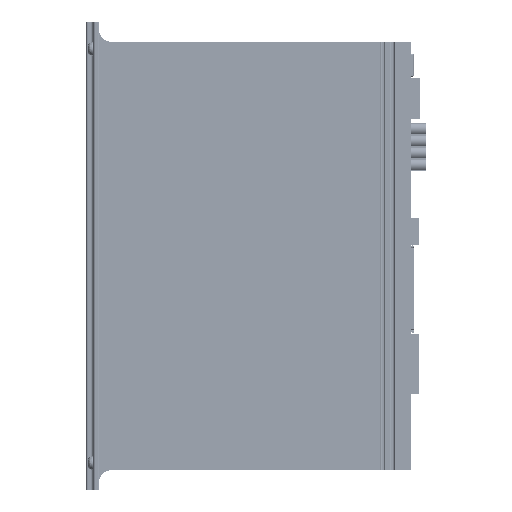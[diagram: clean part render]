
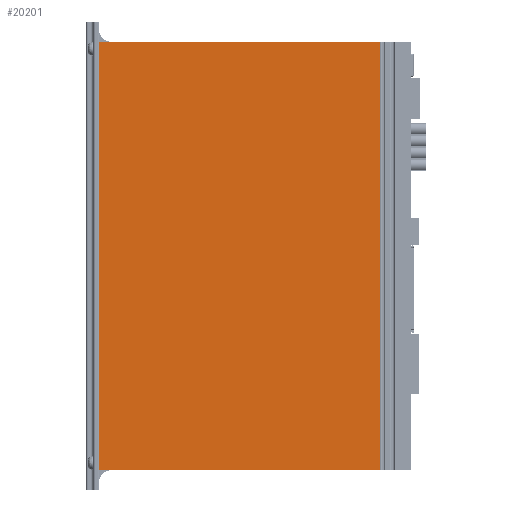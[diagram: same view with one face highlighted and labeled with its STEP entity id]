
A CAD part, front view. The second image highlights one B-rep face of the part: STEP entity #20201.
In plain terms, the highlighted planar face has unit normal (0, -1, 0) as drawn and (-1, 0, 0) by its records, which use the part's own axes.
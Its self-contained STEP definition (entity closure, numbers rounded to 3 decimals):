
#8988=DIRECTION('',(0.,-1.,0.));
#8989=VECTOR('',#8988,179.4);
#8990=CARTESIAN_POINT('',(-23.5,89.7,13.));
#8991=LINE('',#8990,#8989);
#8995=DIRECTION('',(0.,0.,-1.));
#8996=VECTOR('',#8995,118.1);
#8997=CARTESIAN_POINT('',(-23.5,89.7,131.1));
#8998=LINE('',#8997,#8996);
#9002=DIRECTION('',(0.,0.,-1.));
#9003=VECTOR('',#9002,118.1);
#9004=CARTESIAN_POINT('',(-23.5,-89.7,131.1));
#9005=LINE('',#9004,#9003);
#11305=DIRECTION('',(0.,-1.,0.));
#11306=VECTOR('',#11305,179.4);
#11307=CARTESIAN_POINT('',(-23.5,89.7,131.1));
#11308=LINE('',#11307,#11306);
#18322=CARTESIAN_POINT('',(-23.5,-89.7,131.1));
#18324=VERTEX_POINT('',#18322);
#18351=CARTESIAN_POINT('',(-23.5,89.7,131.1));
#18353=VERTEX_POINT('',#18351);
#18962=CARTESIAN_POINT('',(-23.5,89.7,13.));
#18963=CARTESIAN_POINT('',(-23.5,-89.7,13.));
#18964=VERTEX_POINT('',#18962);
#18965=VERTEX_POINT('',#18963);
#20186=CARTESIAN_POINT('',(-23.5,90.,0.));
#20187=DIRECTION('',(-1.,0.,0.));
#20188=DIRECTION('',(0.,-1.,0.));
#20189=AXIS2_PLACEMENT_3D('',#20186,#20187,#20188);
#20190=PLANE('',#20189);
#20192=ORIENTED_EDGE('',*,*,#20191,.F.);
#20194=ORIENTED_EDGE('',*,*,#20193,.F.);
#20196=ORIENTED_EDGE('',*,*,#20195,.T.);
#20198=ORIENTED_EDGE('',*,*,#20197,.T.);
#20199=EDGE_LOOP('',(#20192,#20194,#20196,#20198));
#20200=FACE_OUTER_BOUND('',#20199,.F.);
#20191=EDGE_CURVE('',#18964,#18965,#8991,.T.);
#20193=EDGE_CURVE('',#18353,#18964,#8998,.T.);
#20195=EDGE_CURVE('',#18353,#18324,#11308,.T.);
#20197=EDGE_CURVE('',#18324,#18965,#9005,.T.);
#20201=ADVANCED_FACE('',(#20200),#20190,.T.);
